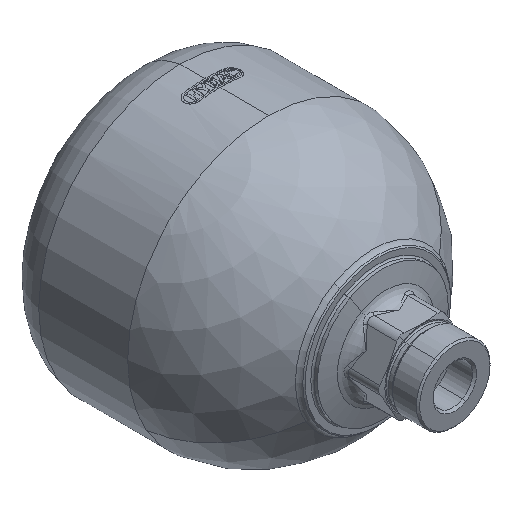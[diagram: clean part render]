
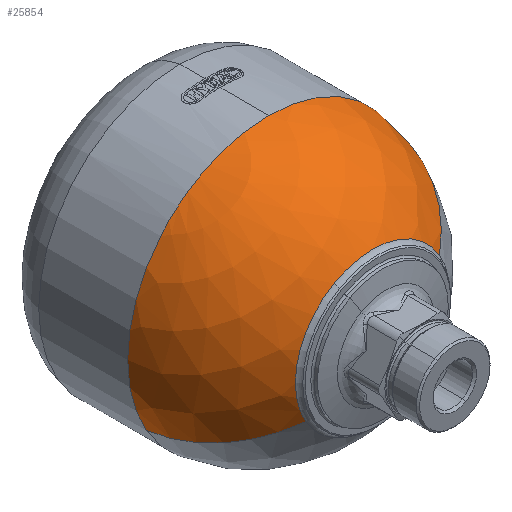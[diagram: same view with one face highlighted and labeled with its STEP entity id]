
A CAD part, isometric view. The second image highlights one B-rep face of the part: STEP entity #25854.
In plain terms, the highlighted spherical face has radius 86.75 mm.
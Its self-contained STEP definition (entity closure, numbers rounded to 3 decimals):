
#101 = DIRECTION ( 'NONE',  ( -0.866, 0., -0.5 ) ) ;
#169 = CARTESIAN_POINT ( 'NONE',  ( -74.695, 113.699, -43.125 ) ) ;
#213 = VERTEX_POINT ( 'NONE', #324 ) ;
#297 = VERTEX_POINT ( 'NONE', #169 ) ;
#324 = CARTESIAN_POINT ( 'NONE',  ( -40.88, 50.217, -23.602 ) ) ;
#2099 = ORIENTED_EDGE ( 'NONE', *, *, #11814, .F. ) ;
#2392 = CIRCLE ( 'NONE', #4768, 47.204 ) ;
#3281 = DIRECTION ( 'NONE',  ( -0.5, 0., 0.866 ) ) ;
#3483 = FACE_OUTER_BOUND ( 'NONE', #18403, .T. ) ;
#3630 = DIRECTION ( 'NONE',  ( 0., -1., 0. ) ) ;
#3698 = DIRECTION ( 'NONE',  ( -0.5, 0., 0.866 ) ) ;
#3753 = DIRECTION ( 'NONE',  ( -0.5, 0., 0.866 ) ) ;
#4096 = AXIS2_PLACEMENT_3D ( 'NONE', #5559, #3753, #12523 ) ;
#4711 = CARTESIAN_POINT ( 'NONE',  ( 0., 50.217, 0. ) ) ;
#4768 = AXIS2_PLACEMENT_3D ( 'NONE', #4711, #11089, #6933 ) ;
#4817 = AXIS2_PLACEMENT_3D ( 'NONE', #23921, #3630, #5854 ) ;
#5559 = CARTESIAN_POINT ( 'NONE',  ( 0., 123., 0. ) ) ;
#5854 = DIRECTION ( 'NONE',  ( 0.5, 0., -0.866 ) ) ;
#6367 = VERTEX_POINT ( 'NONE', #27955 ) ;
#6933 = DIRECTION ( 'NONE',  ( 0.5, 0., -0.866 ) ) ;
#8365 = ORIENTED_EDGE ( 'NONE', *, *, #16205, .F. ) ;
#9205 = CARTESIAN_POINT ( 'NONE',  ( 0., 113.699, 86.25 ) ) ;
#9297 = CIRCLE ( 'NONE', #21552, 86.75 ) ;
#9349 = ORIENTED_EDGE ( 'NONE', *, *, #20729, .T. ) ;
#10087 = ORIENTED_EDGE ( 'NONE', *, *, #25210, .T. ) ;
#10689 = AXIS2_PLACEMENT_3D ( 'NONE', #21428, #17994, #28853 ) ;
#10798 = EDGE_CURVE ( 'NONE', #6367, #213, #2392, .T. ) ;
#11089 = DIRECTION ( 'NONE',  ( 0., -1., 0. ) ) ;
#11512 = CARTESIAN_POINT ( 'NONE',  ( 0., 123., 0. ) ) ;
#11814 = EDGE_CURVE ( 'NONE', #16230, #6367, #15205, .T. ) ;
#12136 = CIRCLE ( 'NONE', #10689, 86.75 ) ;
#12523 = DIRECTION ( 'NONE',  ( 0.866, 0., 0.5 ) ) ;
#14535 = CARTESIAN_POINT ( 'NONE',  ( 0., 113.699, 0. ) ) ;
#15205 = CIRCLE ( 'NONE', #4817, 47.204 ) ;
#15499 = VERTEX_POINT ( 'NONE', #9205 ) ;
#16013 = VERTEX_POINT ( 'NONE', #19638 ) ;
#16021 = EDGE_CURVE ( 'NONE', #297, #213, #12136, .T. ) ;
#16077 = CARTESIAN_POINT ( 'NONE',  ( 40.88, 50.217, 23.602 ) ) ;
#16205 = EDGE_CURVE ( 'NONE', #16013, #16230, #9297, .T. ) ;
#16230 = VERTEX_POINT ( 'NONE', #16077 ) ;
#17082 = SPHERICAL_SURFACE ( 'NONE', #4096, 86.75 ) ;
#17759 = AXIS2_PLACEMENT_3D ( 'NONE', #14535, #28459, #3281 ) ;
#17994 = DIRECTION ( 'NONE',  ( -0.5, 0., 0.866 ) ) ;
#18403 = EDGE_LOOP ( 'NONE', ( #9349, #28778, #18964, #2099, #8365, #10087 ) ) ;
#18964 = ORIENTED_EDGE ( 'NONE', *, *, #10798, .F. ) ;
#19638 = CARTESIAN_POINT ( 'NONE',  ( 74.695, 113.699, 43.125 ) ) ;
#20729 = EDGE_CURVE ( 'NONE', #15499, #297, #27912, .T. ) ;
#21428 = CARTESIAN_POINT ( 'NONE',  ( 0., 123., 0. ) ) ;
#21552 = AXIS2_PLACEMENT_3D ( 'NONE', #11512, #24970, #101 ) ;
#23626 = AXIS2_PLACEMENT_3D ( 'NONE', #28756, #23989, #3698 ) ;
#23921 = CARTESIAN_POINT ( 'NONE',  ( 0., 50.217, 0. ) ) ;
#23989 = DIRECTION ( 'NONE',  ( 0., -1., 0. ) ) ;
#24970 = DIRECTION ( 'NONE',  ( 0.5, 0., -0.866 ) ) ;
#25210 = EDGE_CURVE ( 'NONE', #16013, #15499, #28198, .T. ) ;
#25854 = ADVANCED_FACE ( 'NONE', ( #3483 ), #17082, .T. ) ;
#27912 = CIRCLE ( 'NONE', #23626, 86.25 ) ;
#27955 = CARTESIAN_POINT ( 'NONE',  ( -23.602, 50.217, 40.88 ) ) ;
#28198 = CIRCLE ( 'NONE', #17759, 86.25 ) ;
#28459 = DIRECTION ( 'NONE',  ( 0., -1., 0. ) ) ;
#28756 = CARTESIAN_POINT ( 'NONE',  ( 0., 113.699, 0. ) ) ;
#28778 = ORIENTED_EDGE ( 'NONE', *, *, #16021, .T. ) ;
#28853 = DIRECTION ( 'NONE',  ( 0.866, 0., 0.5 ) ) ;
